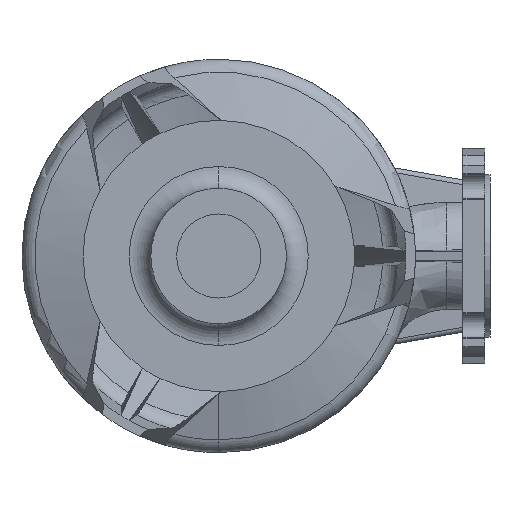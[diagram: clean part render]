
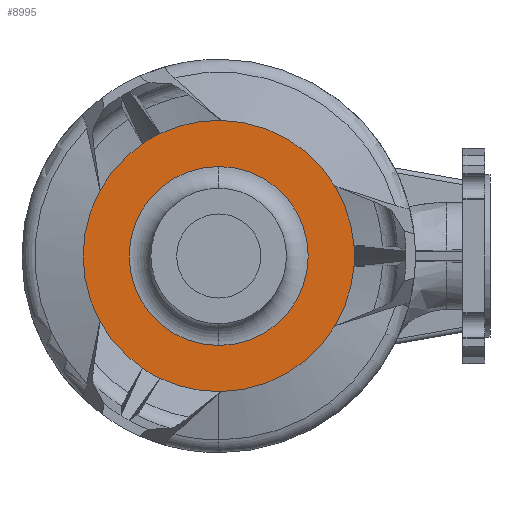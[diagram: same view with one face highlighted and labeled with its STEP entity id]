
A CAD part, front view. The second image highlights one B-rep face of the part: STEP entity #8995.
In plain terms, the highlighted planar face has unit normal (0, -1, 0).
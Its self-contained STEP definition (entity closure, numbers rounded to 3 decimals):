
#27 = ORIENTED_EDGE ( 'NONE', *, *, #6881, .T. ) ;
#339 = AXIS2_PLACEMENT_3D ( 'NONE', #10627, #6496, #8999 ) ;
#380 = ORIENTED_EDGE ( 'NONE', *, *, #8051, .T. ) ;
#418 = DIRECTION ( 'NONE',  ( 0., 0., -1. ) ) ;
#446 = DIRECTION ( 'NONE',  ( 0., 0., 1. ) ) ;
#460 = CARTESIAN_POINT ( 'NONE',  ( -3.452, -313.025, 0. ) ) ;
#469 = EDGE_LOOP ( 'NONE', ( #3252, #6454, #6110, #3700, #380, #10325, #8804, #5163, #8328, #1747, #1040, #9652, #4150 ) ) ;
#574 = DIRECTION ( 'NONE',  ( 0., 0., -1. ) ) ;
#661 = CIRCLE ( 'NONE', #4132, 100. ) ;
#704 = DIRECTION ( 'NONE',  ( 0., 1., 0. ) ) ;
#855 = CARTESIAN_POINT ( 'NONE',  ( -3.452, -313.025, 0. ) ) ;
#891 = CIRCLE ( 'NONE', #3653, 100. ) ;
#974 = CARTESIAN_POINT ( 'NONE',  ( 96.268, -313.025, -7.483 ) ) ;
#999 = VERTEX_POINT ( 'NONE', #8318 ) ;
#1040 = ORIENTED_EDGE ( 'NONE', *, *, #10380, .F. ) ;
#1184 = CIRCLE ( 'NONE', #8678, 100. ) ;
#1316 = CARTESIAN_POINT ( 'NONE',  ( -90.923, -313.025, -48.465 ) ) ;
#1338 = CARTESIAN_POINT ( 'NONE',  ( 82.256, -313.025, 51.519 ) ) ;
#1369 = AXIS2_PLACEMENT_3D ( 'NONE', #8912, #5632, #7393 ) ;
#1449 = DIRECTION ( 'NONE',  ( 0., 0., -1. ) ) ;
#1451 = CIRCLE ( 'NONE', #7568, 100. ) ;
#1617 = CARTESIAN_POINT ( 'NONE',  ( -90.923, -313.025, 48.465 ) ) ;
#1680 = CARTESIAN_POINT ( 'NONE',  ( -3.452, -313.025, 66. ) ) ;
#1694 = CARTESIAN_POINT ( 'NONE',  ( -3.452, -313.025, 100. ) ) ;
#1702 = AXIS2_PLACEMENT_3D ( 'NONE', #3978, #5677, #574 ) ;
#1718 = VERTEX_POINT ( 'NONE', #1316 ) ;
#1744 = DIRECTION ( 'NONE',  ( 0., 0., -1. ) ) ;
#1747 = ORIENTED_EDGE ( 'NONE', *, *, #9335, .T. ) ;
#2030 = VERTEX_POINT ( 'NONE', #1694 ) ;
#2048 = DIRECTION ( 'NONE',  ( 0., 0., -1. ) ) ;
#2233 = CIRCLE ( 'NONE', #1369, 66. ) ;
#2320 = AXIS2_PLACEMENT_3D ( 'NONE', #9870, #10573, #9068 ) ;
#2365 = CARTESIAN_POINT ( 'NONE',  ( 82.256, -313.025, -51.519 ) ) ;
#2603 = CIRCLE ( 'NONE', #339, 100. ) ;
#2669 = EDGE_CURVE ( 'NONE', #2784, #9039, #1184, .T. ) ;
#2784 = VERTEX_POINT ( 'NONE', #974 ) ;
#2808 = CARTESIAN_POINT ( 'NONE',  ( -3.452, -313.025, 0. ) ) ;
#2864 = PLANE ( 'NONE',  #7709 ) ;
#3077 = DIRECTION ( 'NONE',  ( 0., 0., -1. ) ) ;
#3114 = CIRCLE ( 'NONE', #9232, 100. ) ;
#3223 = DIRECTION ( 'NONE',  ( 0., 1., 0. ) ) ;
#3252 = ORIENTED_EDGE ( 'NONE', *, *, #3652, .F. ) ;
#3353 = EDGE_CURVE ( 'NONE', #999, #4495, #3114, .T. ) ;
#3426 = DIRECTION ( 'NONE',  ( 0., 1., 0. ) ) ;
#3652 = EDGE_CURVE ( 'NONE', #8970, #9749, #891, .T. ) ;
#3653 = AXIS2_PLACEMENT_3D ( 'NONE', #8287, #3426, #1744 ) ;
#3700 = ORIENTED_EDGE ( 'NONE', *, *, #10004, .T. ) ;
#3711 = CIRCLE ( 'NONE', #2320, 100. ) ;
#3920 = CARTESIAN_POINT ( 'NONE',  ( -3.452, -313.025, 0. ) ) ;
#3978 = CARTESIAN_POINT ( 'NONE',  ( -3.452, -313.025, 0. ) ) ;
#4132 = AXIS2_PLACEMENT_3D ( 'NONE', #6491, #5434, #7234 ) ;
#4150 = ORIENTED_EDGE ( 'NONE', *, *, #4255, .T. ) ;
#4255 = EDGE_CURVE ( 'NONE', #2784, #9749, #661, .T. ) ;
#4454 = EDGE_CURVE ( 'NONE', #1718, #5817, #1451, .T. ) ;
#4469 = VERTEX_POINT ( 'NONE', #1680 ) ;
#4495 = VERTEX_POINT ( 'NONE', #6642 ) ;
#4522 = CARTESIAN_POINT ( 'NONE',  ( -59.792, -313.025, 82.618 ) ) ;
#5155 = VERTEX_POINT ( 'NONE', #8954 ) ;
#5163 = ORIENTED_EDGE ( 'NONE', *, *, #7137, .T. ) ;
#5309 = CARTESIAN_POINT ( 'NONE',  ( -69.452, -313.025, 0. ) ) ;
#5343 = VERTEX_POINT ( 'NONE', #4522 ) ;
#5364 = CARTESIAN_POINT ( 'NONE',  ( -3.452, -313.025, 0. ) ) ;
#5388 = CARTESIAN_POINT ( 'NONE',  ( -3.452, -313.025, 0. ) ) ;
#5434 = DIRECTION ( 'NONE',  ( 0., -1., 0. ) ) ;
#5547 = CIRCLE ( 'NONE', #7672, 100. ) ;
#5598 = ORIENTED_EDGE ( 'NONE', *, *, #10202, .T. ) ;
#5632 = DIRECTION ( 'NONE',  ( 0., 1., 0. ) ) ;
#5634 = DIRECTION ( 'NONE',  ( 0., 1., 0. ) ) ;
#5677 = DIRECTION ( 'NONE',  ( 0., -1., 0. ) ) ;
#5733 = EDGE_CURVE ( 'NONE', #5802, #2030, #6048, .T. ) ;
#5795 = CIRCLE ( 'NONE', #9105, 66. ) ;
#5802 = VERTEX_POINT ( 'NONE', #9086 ) ;
#5817 = VERTEX_POINT ( 'NONE', #1617 ) ;
#5869 = AXIS2_PLACEMENT_3D ( 'NONE', #855, #9830, #1449 ) ;
#6048 = CIRCLE ( 'NONE', #5869, 100. ) ;
#6110 = ORIENTED_EDGE ( 'NONE', *, *, #5733, .T. ) ;
#6123 = EDGE_CURVE ( 'NONE', #5343, #5817, #6227, .T. ) ;
#6153 = AXIS2_PLACEMENT_3D ( 'NONE', #3920, #3223, #6554 ) ;
#6212 = DIRECTION ( 'NONE',  ( 0., -1., 0. ) ) ;
#6227 = CIRCLE ( 'NONE', #1702, 100. ) ;
#6291 = DIRECTION ( 'NONE',  ( 0., -1., 0. ) ) ;
#6317 = AXIS2_PLACEMENT_3D ( 'NONE', #5364, #10277, #2048 ) ;
#6454 = ORIENTED_EDGE ( 'NONE', *, *, #10388, .F. ) ;
#6491 = CARTESIAN_POINT ( 'NONE',  ( -3.452, -313.025, 0. ) ) ;
#6496 = DIRECTION ( 'NONE',  ( 0., -1., 0. ) ) ;
#6537 = CARTESIAN_POINT ( 'NONE',  ( -1.689, -313.025, -99.984 ) ) ;
#6554 = DIRECTION ( 'NONE',  ( 0., 0., -1. ) ) ;
#6642 = CARTESIAN_POINT ( 'NONE',  ( -46.831, -313.025, -90.101 ) ) ;
#6881 = EDGE_CURVE ( 'NONE', #4469, #7712, #2233, .T. ) ;
#7069 = FACE_OUTER_BOUND ( 'NONE', #469, .T. ) ;
#7137 = EDGE_CURVE ( 'NONE', #1718, #999, #2603, .T. ) ;
#7234 = DIRECTION ( 'NONE',  ( 0., 0., 1. ) ) ;
#7343 = CARTESIAN_POINT ( 'NONE',  ( -3.452, -313.025, 0. ) ) ;
#7393 = DIRECTION ( 'NONE',  ( 0., 0., -1. ) ) ;
#7457 = VERTEX_POINT ( 'NONE', #6537 ) ;
#7568 = AXIS2_PLACEMENT_3D ( 'NONE', #8283, #704, #3077 ) ;
#7672 = AXIS2_PLACEMENT_3D ( 'NONE', #460, #6291, #8033 ) ;
#7709 = AXIS2_PLACEMENT_3D ( 'NONE', #5309, #8643, #10374 ) ;
#7712 = VERTEX_POINT ( 'NONE', #8311 ) ;
#7722 = DIRECTION ( 'NONE',  ( 0., 1., 0. ) ) ;
#7865 = AXIS2_PLACEMENT_3D ( 'NONE', #8941, #9912, #8119 ) ;
#8033 = DIRECTION ( 'NONE',  ( 0., 0., 1. ) ) ;
#8051 = EDGE_CURVE ( 'NONE', #5155, #5343, #5547, .T. ) ;
#8119 = DIRECTION ( 'NONE',  ( 0., 0., -1. ) ) ;
#8283 = CARTESIAN_POINT ( 'NONE',  ( -3.452, -313.025, 0. ) ) ;
#8287 = CARTESIAN_POINT ( 'NONE',  ( -3.452, -313.025, 0. ) ) ;
#8311 = CARTESIAN_POINT ( 'NONE',  ( -3.452, -313.025, -66. ) ) ;
#8318 = CARTESIAN_POINT ( 'NONE',  ( -59.792, -313.025, -82.618 ) ) ;
#8328 = ORIENTED_EDGE ( 'NONE', *, *, #3353, .T. ) ;
#8643 = DIRECTION ( 'NONE',  ( 0., 1., 0. ) ) ;
#8678 = AXIS2_PLACEMENT_3D ( 'NONE', #7343, #5634, #8861 ) ;
#8804 = ORIENTED_EDGE ( 'NONE', *, *, #4454, .F. ) ;
#8861 = DIRECTION ( 'NONE',  ( 0., 0., -1. ) ) ;
#8895 = CIRCLE ( 'NONE', #7865, 100. ) ;
#8912 = CARTESIAN_POINT ( 'NONE',  ( -3.452, -313.025, 0. ) ) ;
#8941 = CARTESIAN_POINT ( 'NONE',  ( -3.452, -313.025, 0. ) ) ;
#8954 = CARTESIAN_POINT ( 'NONE',  ( -46.831, -313.025, 90.101 ) ) ;
#8970 = VERTEX_POINT ( 'NONE', #1338 ) ;
#8995 = ADVANCED_FACE ( 'NONE', ( #10329, #7069 ), #2864, .F. ) ;
#8999 = DIRECTION ( 'NONE',  ( 0., 0., -1. ) ) ;
#9039 = VERTEX_POINT ( 'NONE', #2365 ) ;
#9068 = DIRECTION ( 'NONE',  ( 0., 0., -1. ) ) ;
#9086 = CARTESIAN_POINT ( 'NONE',  ( -1.689, -313.025, 99.984 ) ) ;
#9105 = AXIS2_PLACEMENT_3D ( 'NONE', #2808, #7722, #418 ) ;
#9232 = AXIS2_PLACEMENT_3D ( 'NONE', #5388, #6212, #446 ) ;
#9284 = CIRCLE ( 'NONE', #6317, 100. ) ;
#9335 = EDGE_CURVE ( 'NONE', #4495, #7457, #8895, .T. ) ;
#9622 = CIRCLE ( 'NONE', #6153, 100. ) ;
#9652 = ORIENTED_EDGE ( 'NONE', *, *, #2669, .F. ) ;
#9731 = CARTESIAN_POINT ( 'NONE',  ( 96.268, -313.025, 7.483 ) ) ;
#9749 = VERTEX_POINT ( 'NONE', #9731 ) ;
#9830 = DIRECTION ( 'NONE',  ( 0., -1., 0. ) ) ;
#9870 = CARTESIAN_POINT ( 'NONE',  ( -3.452, -313.025, 0. ) ) ;
#9912 = DIRECTION ( 'NONE',  ( 0., -1., 0. ) ) ;
#10004 = EDGE_CURVE ( 'NONE', #2030, #5155, #9284, .T. ) ;
#10202 = EDGE_CURVE ( 'NONE', #7712, #4469, #5795, .T. ) ;
#10277 = DIRECTION ( 'NONE',  ( 0., -1., 0. ) ) ;
#10325 = ORIENTED_EDGE ( 'NONE', *, *, #6123, .T. ) ;
#10329 = FACE_BOUND ( 'NONE', #10444, .T. ) ;
#10374 = DIRECTION ( 'NONE',  ( 0., 0., -1. ) ) ;
#10380 = EDGE_CURVE ( 'NONE', #9039, #7457, #9622, .T. ) ;
#10388 = EDGE_CURVE ( 'NONE', #5802, #8970, #3711, .T. ) ;
#10444 = EDGE_LOOP ( 'NONE', ( #5598, #27 ) ) ;
#10573 = DIRECTION ( 'NONE',  ( 0., 1., 0. ) ) ;
#10627 = CARTESIAN_POINT ( 'NONE',  ( -3.452, -313.025, 0. ) ) ;
